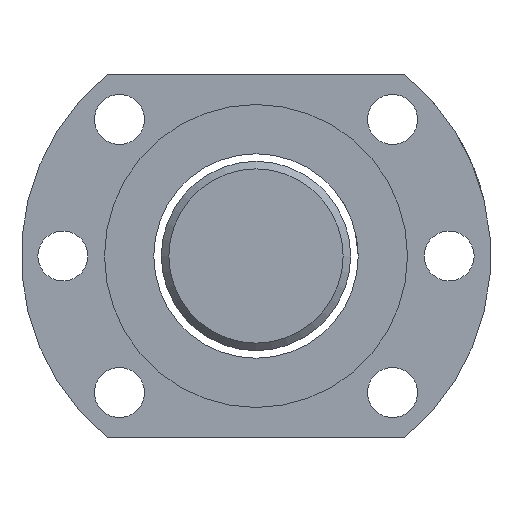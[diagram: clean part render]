
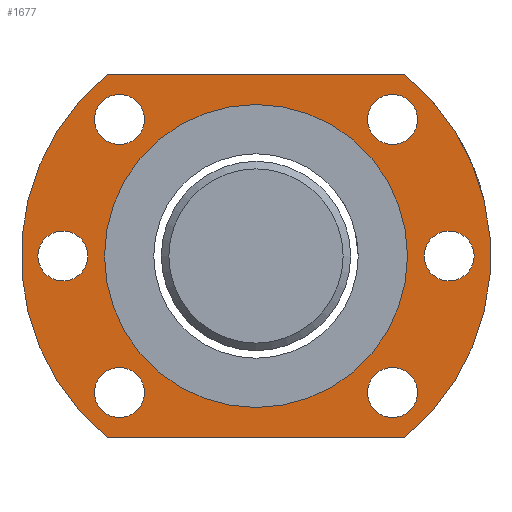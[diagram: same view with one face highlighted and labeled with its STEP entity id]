
A CAD part, left-side view. The second image highlights one B-rep face of the part: STEP entity #1677.
In plain terms, the highlighted planar face has unit normal (-1, 0, 0).
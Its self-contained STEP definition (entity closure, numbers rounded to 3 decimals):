
#30 = DIRECTION ( 'NONE',  ( 1., 0., 0. ) ) ;
#73 = EDGE_CURVE ( 'NONE', #1906, #1906, #2353, .T. ) ;
#99 = VERTEX_POINT ( 'NONE', #312 ) ;
#111 = VERTEX_POINT ( 'NONE', #897 ) ;
#150 = DIRECTION ( 'NONE',  ( -1., 0., 0. ) ) ;
#162 = FACE_OUTER_BOUND ( 'NONE', #1781, .T. ) ;
#170 = ORIENTED_EDGE ( 'NONE', *, *, #1403, .F. ) ;
#184 = ORIENTED_EDGE ( 'NONE', *, *, #73, .F. ) ;
#250 = ORIENTED_EDGE ( 'NONE', *, *, #2409, .T. ) ;
#253 = EDGE_LOOP ( 'NONE', ( #184 ) ) ;
#281 = EDGE_CURVE ( 'NONE', #99, #99, #1082, .T. ) ;
#312 = CARTESIAN_POINT ( 'NONE',  ( -65.485, -70.384, -18.365 ) ) ;
#359 = CARTESIAN_POINT ( 'NONE',  ( -65.485, -34.322, -21.665 ) ) ;
#363 = FACE_BOUND ( 'NONE', #1048, .T. ) ;
#365 = VERTEX_POINT ( 'NONE', #2531 ) ;
#378 = EDGE_CURVE ( 'NONE', #2525, #365, #2391, .T. ) ;
#383 = DIRECTION ( 'NONE',  ( 0., 0., 1. ) ) ;
#397 = ORIENTED_EDGE ( 'NONE', *, *, #1129, .T. ) ;
#433 = FACE_BOUND ( 'NONE', #1045, .T. ) ;
#443 = VERTEX_POINT ( 'NONE', #2567 ) ;
#447 = AXIS2_PLACEMENT_3D ( 'NONE', #2035, #30, #819 ) ;
#507 = CARTESIAN_POINT ( 'NONE',  ( -65.485, -26.853, -0.333 ) ) ;
#533 = CARTESIAN_POINT ( 'NONE',  ( -65.485, -71.974, 20.367 ) ) ;
#542 = VERTEX_POINT ( 'NONE', #1385 ) ;
#569 = DIRECTION ( 'NONE',  ( 0., 0., -1. ) ) ;
#577 = LINE ( 'NONE', #978, #2474 ) ;
#647 = DIRECTION ( 'NONE',  ( 0., 0., 1. ) ) ;
#751 = EDGE_CURVE ( 'NONE', #443, #2525, #577, .T. ) ;
#762 = CIRCLE ( 'NONE', #1107, 3.3 ) ;
#819 = DIRECTION ( 'NONE',  ( 0., 0., 1. ) ) ;
#828 = DIRECTION ( 'NONE',  ( 1., 0., 0. ) ) ;
#897 = CARTESIAN_POINT ( 'NONE',  ( -65.485, -52.353, -23.633 ) ) ;
#902 = AXIS2_PLACEMENT_3D ( 'NONE', #1413, #2220, #2433 ) ;
#922 = EDGE_CURVE ( 'NONE', #1305, #1305, #1203, .T. ) ;
#978 = CARTESIAN_POINT ( 'NONE',  ( -65.485, -32.731, -27.633 ) ) ;
#992 = EDGE_LOOP ( 'NONE', ( #250 ) ) ;
#994 = CIRCLE ( 'NONE', #1970, 31. ) ;
#995 = CARTESIAN_POINT ( 'NONE',  ( -65.485, -26.853, -3.633 ) ) ;
#1036 = PLANE ( 'NONE',  #2308 ) ;
#1045 = EDGE_LOOP ( 'NONE', ( #1763 ) ) ;
#1048 = EDGE_LOOP ( 'NONE', ( #170 ) ) ;
#1082 = CIRCLE ( 'NONE', #2259, 3.3 ) ;
#1083 = CARTESIAN_POINT ( 'NONE',  ( -65.485, -77.853, -0.333 ) ) ;
#1099 = CARTESIAN_POINT ( 'NONE',  ( -65.485, -52.353, -3.633 ) ) ;
#1107 = AXIS2_PLACEMENT_3D ( 'NONE', #2429, #828, #647 ) ;
#1122 = CARTESIAN_POINT ( 'NONE',  ( -65.485, -71.974, -27.633 ) ) ;
#1129 = EDGE_CURVE ( 'NONE', #1942, #1942, #1930, .T. ) ;
#1156 = CARTESIAN_POINT ( 'NONE',  ( -65.485, -70.384, 17.698 ) ) ;
#1203 = CIRCLE ( 'NONE', #1415, 3.3 ) ;
#1232 = CARTESIAN_POINT ( 'NONE',  ( -65.485, -52.353, -3.633 ) ) ;
#1243 = VECTOR ( 'NONE', #1558, 1000. ) ;
#1305 = VERTEX_POINT ( 'NONE', #2115 ) ;
#1333 = DIRECTION ( 'NONE',  ( -1., 0., 0. ) ) ;
#1334 = CARTESIAN_POINT ( 'NONE',  ( -65.485, -52.353, -3.633 ) ) ;
#1344 = VERTEX_POINT ( 'NONE', #1156 ) ;
#1377 = AXIS2_PLACEMENT_3D ( 'NONE', #2157, #150, #569 ) ;
#1385 = CARTESIAN_POINT ( 'NONE',  ( -65.485, -34.322, 17.698 ) ) ;
#1399 = FACE_BOUND ( 'NONE', #992, .T. ) ;
#1403 = EDGE_CURVE ( 'NONE', #111, #111, #2140, .T. ) ;
#1413 = CARTESIAN_POINT ( 'NONE',  ( -65.485, -34.322, 14.398 ) ) ;
#1415 = AXIS2_PLACEMENT_3D ( 'NONE', #359, #1769, #383 ) ;
#1421 = FACE_BOUND ( 'NONE', #1574, .T. ) ;
#1506 = EDGE_CURVE ( 'NONE', #365, #1819, #2171, .T. ) ;
#1558 = DIRECTION ( 'NONE',  ( 0., 1., 0. ) ) ;
#1562 = EDGE_CURVE ( 'NONE', #1819, #443, #994, .T. ) ;
#1572 = FACE_BOUND ( 'NONE', #253, .T. ) ;
#1574 = EDGE_LOOP ( 'NONE', ( #1861 ) ) ;
#1593 = EDGE_LOOP ( 'NONE', ( #1951 ) ) ;
#1603 = DIRECTION ( 'NONE',  ( 0., 0., 1. ) ) ;
#1624 = AXIS2_PLACEMENT_3D ( 'NONE', #1099, #1333, #2544 ) ;
#1677 = ADVANCED_FACE ( 'NONE', ( #2370, #363, #162, #1572, #2604, #1421, #433, #1399 ), #1036, .T. ) ;
#1746 = DIRECTION ( 'NONE',  ( -1., 0., 0. ) ) ;
#1763 = ORIENTED_EDGE ( 'NONE', *, *, #281, .T. ) ;
#1769 = DIRECTION ( 'NONE',  ( -1., 0., 0. ) ) ;
#1771 = DIRECTION ( 'NONE',  ( 1., 0., 0. ) ) ;
#1781 = EDGE_LOOP ( 'NONE', ( #2371, #2438, #2402, #2017 ) ) ;
#1811 = DIRECTION ( 'NONE',  ( 0., 0., 1. ) ) ;
#1819 = VERTEX_POINT ( 'NONE', #2059 ) ;
#1861 = ORIENTED_EDGE ( 'NONE', *, *, #922, .F. ) ;
#1906 = VERTEX_POINT ( 'NONE', #507 ) ;
#1911 = EDGE_CURVE ( 'NONE', #542, #542, #2185, .T. ) ;
#1930 = CIRCLE ( 'NONE', #447, 3.3 ) ;
#1942 = VERTEX_POINT ( 'NONE', #1083 ) ;
#1951 = ORIENTED_EDGE ( 'NONE', *, *, #1911, .F. ) ;
#1963 = CARTESIAN_POINT ( 'NONE',  ( -65.485, -70.384, -21.665 ) ) ;
#1970 = AXIS2_PLACEMENT_3D ( 'NONE', #1334, #1746, #2144 ) ;
#2017 = ORIENTED_EDGE ( 'NONE', *, *, #1506, .T. ) ;
#2035 = CARTESIAN_POINT ( 'NONE',  ( -65.485, -77.853, -3.633 ) ) ;
#2050 = AXIS2_PLACEMENT_3D ( 'NONE', #995, #2613, #1603 ) ;
#2059 = CARTESIAN_POINT ( 'NONE',  ( -65.485, -32.731, 20.367 ) ) ;
#2115 = CARTESIAN_POINT ( 'NONE',  ( -65.485, -34.322, -18.365 ) ) ;
#2140 = CIRCLE ( 'NONE', #1377, 20. ) ;
#2144 = DIRECTION ( 'NONE',  ( 0., 0., -1. ) ) ;
#2157 = CARTESIAN_POINT ( 'NONE',  ( -65.485, -52.353, -3.633 ) ) ;
#2167 = DIRECTION ( 'NONE',  ( 0., -1., 0. ) ) ;
#2171 = LINE ( 'NONE', #533, #1243 ) ;
#2181 = DIRECTION ( 'NONE',  ( 0., 0., 1. ) ) ;
#2185 = CIRCLE ( 'NONE', #902, 3.3 ) ;
#2215 = DIRECTION ( 'NONE',  ( -1., 0., 0. ) ) ;
#2220 = DIRECTION ( 'NONE',  ( -1., 0., 0. ) ) ;
#2259 = AXIS2_PLACEMENT_3D ( 'NONE', #1963, #1771, #2181 ) ;
#2308 = AXIS2_PLACEMENT_3D ( 'NONE', #1232, #2215, #1811 ) ;
#2350 = EDGE_LOOP ( 'NONE', ( #397 ) ) ;
#2353 = CIRCLE ( 'NONE', #2050, 3.3 ) ;
#2370 = FACE_BOUND ( 'NONE', #2350, .T. ) ;
#2371 = ORIENTED_EDGE ( 'NONE', *, *, #1562, .T. ) ;
#2391 = CIRCLE ( 'NONE', #1624, 31. ) ;
#2402 = ORIENTED_EDGE ( 'NONE', *, *, #378, .T. ) ;
#2409 = EDGE_CURVE ( 'NONE', #1344, #1344, #762, .T. ) ;
#2429 = CARTESIAN_POINT ( 'NONE',  ( -65.485, -70.384, 14.398 ) ) ;
#2433 = DIRECTION ( 'NONE',  ( 0., 0., 1. ) ) ;
#2438 = ORIENTED_EDGE ( 'NONE', *, *, #751, .T. ) ;
#2474 = VECTOR ( 'NONE', #2167, 1000. ) ;
#2525 = VERTEX_POINT ( 'NONE', #1122 ) ;
#2531 = CARTESIAN_POINT ( 'NONE',  ( -65.485, -71.974, 20.367 ) ) ;
#2544 = DIRECTION ( 'NONE',  ( 0., 0., -1. ) ) ;
#2567 = CARTESIAN_POINT ( 'NONE',  ( -65.485, -32.731, -27.633 ) ) ;
#2604 = FACE_BOUND ( 'NONE', #1593, .T. ) ;
#2613 = DIRECTION ( 'NONE',  ( -1., 0., 0. ) ) ;
